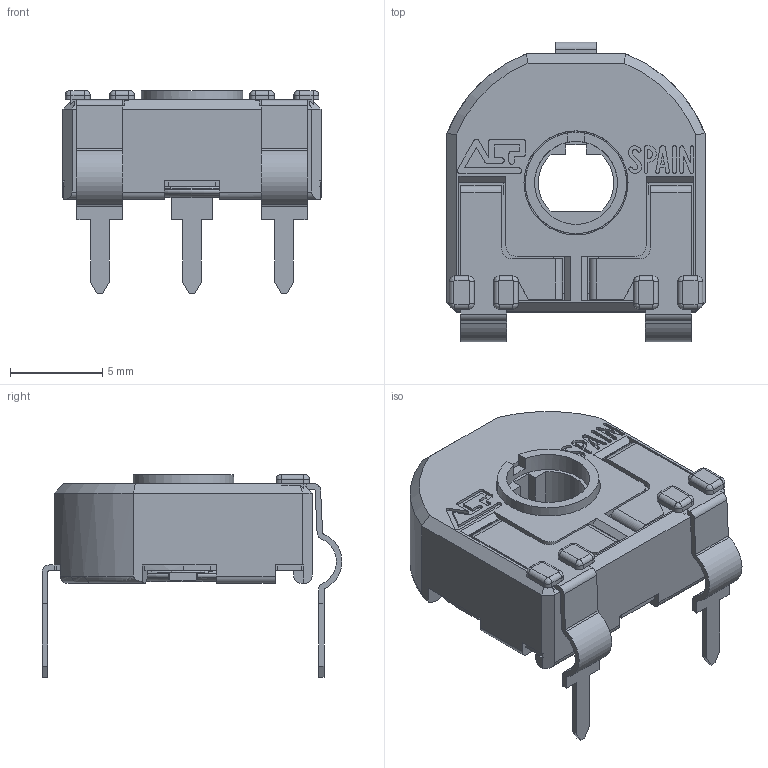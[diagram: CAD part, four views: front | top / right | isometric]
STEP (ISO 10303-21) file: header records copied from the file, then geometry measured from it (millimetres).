
FILE_DESCRIPTION(/* description */ (''),/* implementation_level */ '2;1');
FILE_NAME(/* name */ 'C:\Users\CEM\Desktop\ENVIAR\TRANSICION 3D CATALOGOS\CAR14TVR15.stp',/* time_stamp */ '2025-09-22T10:01:07+02:00',/* author */ ('CEM'),/* organization */ (''),/* preprocessor_version */ 'ST-DEVELOPER v17',/* originating_system */ 'Autodesk Inventor 2018',/* authorisation */ '');
FILE_SCHEMA (('AUTOMOTIVE_DESIGN { 1 0 10303 214 3 1 1 }'));
Length unit declared in the file: millimetre
Products named in the file (1): CAR14TVR15
Bounding box: 14 x 16.27 x 11 mm (x, y, z)
Volume: 547.3 mm3; surface area: 1564 mm2
Topology: 1 solids, 1 shells, 610 faces, 1774 edges, 1140 vertices
Faces by surface type: plane 406, cylinder 156, bspline 20, cone 16, torus 12
Full cylindrical faces by diameter (mm): 1.2 x2, 4.5 x1, 5.5 x1, 5.65 x1, 6.88 x1
Entity records: 20884 total; most frequent: CARTESIAN_POINT 3853, ORIENTED_EDGE 3548, DIRECTION 3343, EDGE_CURVE 1774, LINE 1303, VECTOR 1303, VERTEX_POINT 1140, AXIS2_PLACEMENT_3D 1020
